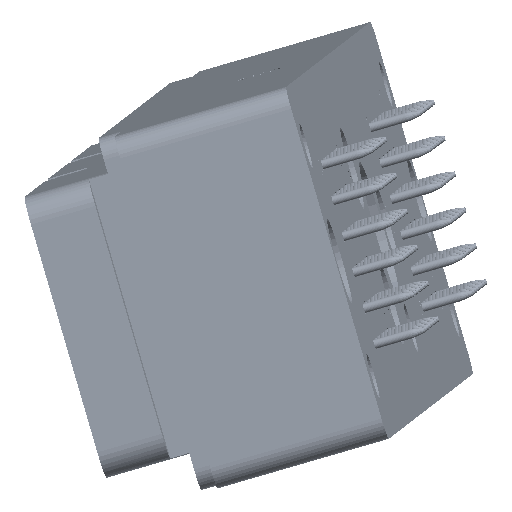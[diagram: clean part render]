
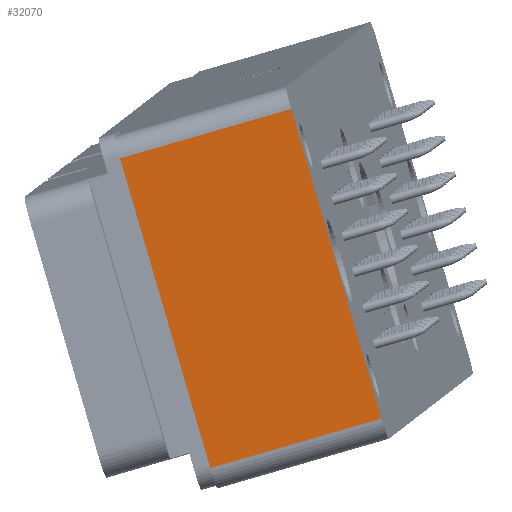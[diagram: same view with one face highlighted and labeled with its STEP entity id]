
A CAD part, top view. The second image highlights one B-rep face of the part: STEP entity #32070.
In plain terms, the highlighted planar face has unit normal (-0.054, -0.043, 0.998).
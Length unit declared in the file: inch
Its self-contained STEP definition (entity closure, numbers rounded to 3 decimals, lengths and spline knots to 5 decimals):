
#26426=CARTESIAN_POINT('',(1.85902,0.82556,2.55044));
#26427=VERTEX_POINT('',#26426);
#26435=CARTESIAN_POINT('',(2.10001,-0.00175,2.52745));
#26436=VERTEX_POINT('',#26435);
#26437=CARTESIAN_POINT('',(2.10001,-0.00175,2.52745));
#26438=DIRECTION('',(-0.28,0.96,0.027));
#26439=VECTOR('',#26438,0.862);
#26440=LINE('',#26437,#26439);
#26441=EDGE_CURVE('',#26436,#26427,#26440,.T.);
#31933=CARTESIAN_POINT('',(1.64276,-0.13409,2.49684));
#31934=VERTEX_POINT('',#31933);
#31944=CARTESIAN_POINT('',(2.10001,-0.00175,2.52745));
#31945=DIRECTION('',(-0.959,-0.277,-0.064));
#31946=VECTOR('',#31945,0.477);
#31947=LINE('',#31944,#31946);
#31948=EDGE_CURVE('',#26436,#31934,#31947,.T.);
#31959=CARTESIAN_POINT('',(1.40177,0.69322,2.51983));
#31960=VERTEX_POINT('',#31959);
#31961=CARTESIAN_POINT('',(1.40177,0.69322,2.51983));
#31962=DIRECTION('',(0.28,-0.96,-0.027));
#31963=VECTOR('',#31962,0.862);
#31964=LINE('',#31961,#31963);
#31965=EDGE_CURVE('',#31960,#31934,#31964,.T.);
#32054=CARTESIAN_POINT('',(1.81664,0.87469,2.55028));
#32055=DIRECTION('',(-0.054,-0.044,0.998));
#32056=DIRECTION('',(-0.959,-0.277,-0.064));
#32057=AXIS2_PLACEMENT_3D('',#32054,#32055,#32056);
#32058=PLANE('',#32057);
#32059=ORIENTED_EDGE('',*,*,#31948,.F.);
#32060=ORIENTED_EDGE('',*,*,#26441,.T.);
#32061=CARTESIAN_POINT('',(1.40177,0.69322,2.51983));
#32062=DIRECTION('',(0.959,0.277,0.064));
#32063=VECTOR('',#32062,0.477);
#32064=LINE('',#32061,#32063);
#32065=EDGE_CURVE('',#31960,#26427,#32064,.T.);
#32066=ORIENTED_EDGE('',*,*,#32065,.F.);
#32067=ORIENTED_EDGE('',*,*,#31965,.T.);
#32068=EDGE_LOOP('',(#32059,#32060,#32066,#32067));
#32069=FACE_OUTER_BOUND('',#32068,.T.);
#32070=ADVANCED_FACE('',(#32069),#32058,.T.);
